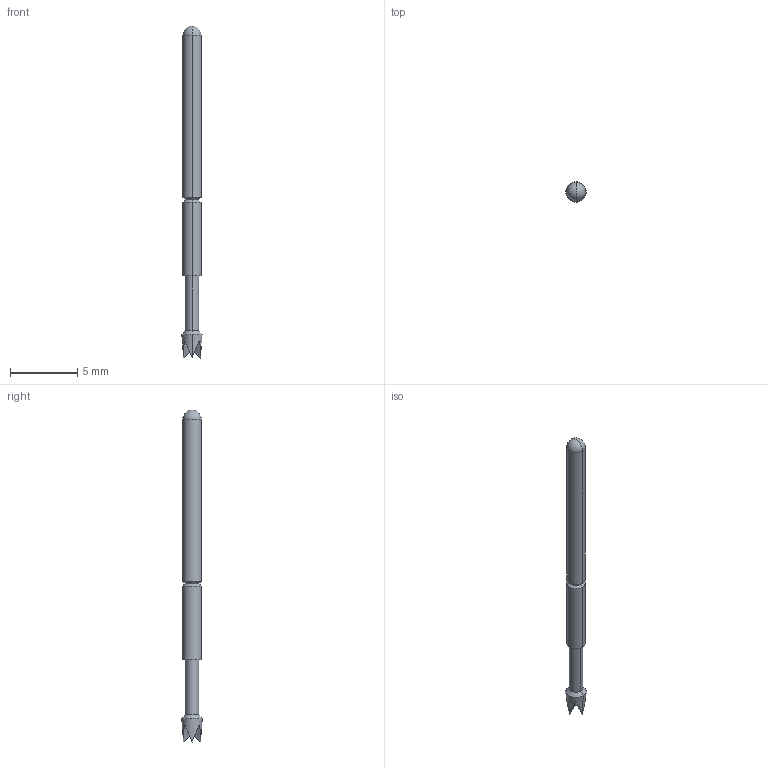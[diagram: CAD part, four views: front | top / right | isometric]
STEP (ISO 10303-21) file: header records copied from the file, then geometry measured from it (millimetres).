
FILE_DESCRIPTION (( 'STEP AP214' ), '1' );
FILE_NAME ('PA3Q.STEP', '2024-07-10T09:07:29', ( '' ), ( '' ), 'SwSTEP 2.0', 'SolidWorks 2024', '' );
FILE_SCHEMA (( 'AUTOMOTIVE_DESIGN' ));
Length unit declared in the file: millimetre
Products named in the file (1): PA3Q
Bounding box: 1.52 x 1.52 x 24.64 mm (x, y, z)
Volume: 32.4 mm3; surface area: 104.2 mm2
Topology: 1 solids, 1 shells, 25 faces, 52 edges, 28 vertices
Faces by surface type: cone 8, bspline 8, cylinder 6, sphere 2, plane 1
Entity records: 1042 total; most frequent: CARTESIAN_POINT 559, ORIENTED_EDGE 96, DIRECTION 86, EDGE_CURVE 48, AXIS2_PLACEMENT_3D 36, VERTEX_POINT 26, EDGE_LOOP 26, ADVANCED_FACE 25
